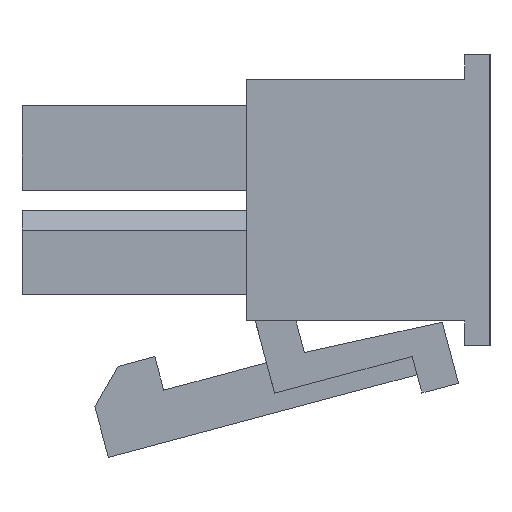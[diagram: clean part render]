
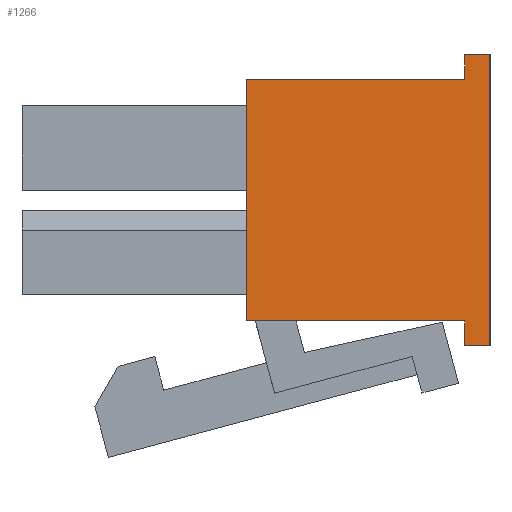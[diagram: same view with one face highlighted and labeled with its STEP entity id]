
A CAD part, left-side view. The second image highlights one B-rep face of the part: STEP entity #1266.
In plain terms, the highlighted planar face has unit normal (-1, 0, 0).
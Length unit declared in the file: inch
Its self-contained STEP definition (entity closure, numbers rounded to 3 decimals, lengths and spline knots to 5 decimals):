
#39 = EDGE_CURVE ( 'NONE', #16196, #15395, #2796, .T. ) ;
#329 = EDGE_CURVE ( 'NONE', #16259, #16260, #7403, .T. ) ;
#338 = EDGE_CURVE ( 'NONE', #16196, #16259, #7414, .T. ) ;
#341 = EDGE_CURVE ( 'NONE', #16260, #15516, #7427, .T. ) ;
#342 = EDGE_CURVE ( 'NONE', #15505, #15513, #7429, .T. ) ;
#466 = EDGE_CURVE ( 'NONE', #15395, #15398, #7677, .T. ) ;
#674 = ORIENTED_EDGE ( 'NONE', *, *, #39, .F. ) ;
#675 = ORIENTED_EDGE ( 'NONE', *, *, #338, .T. ) ;
#676 = ORIENTED_EDGE ( 'NONE', *, *, #329, .T. ) ;
#677 = ORIENTED_EDGE ( 'NONE', *, *, #341, .T. ) ;
#678 = ORIENTED_EDGE ( 'NONE', *, *, #3045, .F. ) ;
#679 = ORIENTED_EDGE ( 'NONE', *, *, #342, .F. ) ;
#680 = ORIENTED_EDGE ( 'NONE', *, *, #3048, .F. ) ;
#681 = ORIENTED_EDGE ( 'NONE', *, *, #466, .F. ) ;
#1266 = ADVANCED_FACE ( 'NONE', ( #8759 ), #9330, .F. ) ;
#1863 = EDGE_LOOP ( 'NONE', ( #674, #675, #676, #677, #678, #679, #680, #681 ) ) ;
#2796 = LINE ( 'NONE', #3307, #2805 ) ;
#2805 = VECTOR ( 'NONE', #3310, 39.37008 ) ;
#3045 = EDGE_CURVE ( 'NONE', #15513, #15516, #13750, .T. ) ;
#3048 = EDGE_CURVE ( 'NONE', #15398, #15505, #13756, .T. ) ;
#3307 = CARTESIAN_POINT ( 'NONE',  ( 0.86978, 4.28162, 0.29389 ) ) ;
#3310 = DIRECTION ( 'NONE',  ( 0., -1., 0. ) ) ;
#6302 = CARTESIAN_POINT ( 'NONE',  ( 0.86978, 1.13333, -0.088 ) ) ;
#6303 = DIRECTION ( 'NONE',  ( 0., -1., 0. ) ) ;
#6318 = CARTESIAN_POINT ( 'NONE',  ( 0.86978, 1.23821, 0.00042 ) ) ;
#6321 = DIRECTION ( 'NONE',  ( 0., 0., -1. ) ) ;
#6326 = CARTESIAN_POINT ( 'NONE',  ( 0.86978, 0.89238, -0.127 ) ) ;
#6327 = DIRECTION ( 'NONE',  ( 0., 0., -1. ) ) ;
#6328 = CARTESIAN_POINT ( 'NONE',  ( 0.86978, 0.85238, 0.28444 ) ) ;
#6329 = DIRECTION ( 'NONE',  ( 0., 0., -1. ) ) ;
#6576 = CARTESIAN_POINT ( 'NONE',  ( 0.86978, 0.89238, 0.292 ) ) ;
#6577 = DIRECTION ( 'NONE',  ( 0., 0., 1. ) ) ;
#7403 = LINE ( 'NONE', #6302, #7404 ) ;
#7404 = VECTOR ( 'NONE', #6303, 39.37008 ) ;
#7414 = LINE ( 'NONE', #6318, #7421 ) ;
#7421 = VECTOR ( 'NONE', #6321, 39.37008 ) ;
#7427 = LINE ( 'NONE', #6326, #7428 ) ;
#7428 = VECTOR ( 'NONE', #6327, 39.37008 ) ;
#7429 = LINE ( 'NONE', #6328, #7430 ) ;
#7430 = VECTOR ( 'NONE', #6329, 39.37008 ) ;
#7677 = LINE ( 'NONE', #6576, #7678 ) ;
#7678 = VECTOR ( 'NONE', #6577, 39.37008 ) ;
#8109 = AXIS2_PLACEMENT_3D ( 'NONE', #9321, #9343, #9344 ) ;
#8759 = FACE_OUTER_BOUND ( 'NONE', #1863, .T. ) ;
#9321 = CARTESIAN_POINT ( 'NONE',  ( 0.86978, 4.28162, 0.00042 ) ) ;
#9330 = PLANE ( 'NONE',  #8109 ) ;
#9343 = DIRECTION ( 'NONE',  ( 1., 0., 0. ) ) ;
#9344 = DIRECTION ( 'NONE',  ( 0., 0., -1. ) ) ;
#13750 = LINE ( 'NONE', #14257, #13751 ) ;
#13751 = VECTOR ( 'NONE', #14258, 39.37008 ) ;
#13756 = LINE ( 'NONE', #14263, #13757 ) ;
#13757 = VECTOR ( 'NONE', #14264, 39.37008 ) ;
#14257 = CARTESIAN_POINT ( 'NONE',  ( 0.86978, 4.28162, -0.12737 ) ) ;
#14258 = DIRECTION ( 'NONE',  ( 0., 1., 0. ) ) ;
#14263 = CARTESIAN_POINT ( 'NONE',  ( 0.86978, 4.28162, 0.33326 ) ) ;
#14264 = DIRECTION ( 'NONE',  ( 0., -1., 0. ) ) ;
#14777 = CARTESIAN_POINT ( 'NONE',  ( 0.86978, 0.89238, 0.29389 ) ) ;
#14780 = CARTESIAN_POINT ( 'NONE',  ( 0.86978, 0.89238, 0.33326 ) ) ;
#14887 = CARTESIAN_POINT ( 'NONE',  ( 0.86978, 0.85238, 0.33326 ) ) ;
#14895 = CARTESIAN_POINT ( 'NONE',  ( 0.86978, 0.85238, -0.12737 ) ) ;
#14898 = CARTESIAN_POINT ( 'NONE',  ( 0.86978, 0.89238, -0.12737 ) ) ;
#15049 = CARTESIAN_POINT ( 'NONE',  ( 0.86978, 1.23821, 0.29389 ) ) ;
#15112 = CARTESIAN_POINT ( 'NONE',  ( 0.86978, 1.23821, -0.088 ) ) ;
#15113 = CARTESIAN_POINT ( 'NONE',  ( 0.86978, 0.89238, -0.088 ) ) ;
#15395 = VERTEX_POINT ( 'NONE', #14777 ) ;
#15398 = VERTEX_POINT ( 'NONE', #14780 ) ;
#15505 = VERTEX_POINT ( 'NONE', #14887 ) ;
#15513 = VERTEX_POINT ( 'NONE', #14895 ) ;
#15516 = VERTEX_POINT ( 'NONE', #14898 ) ;
#16196 = VERTEX_POINT ( 'NONE', #15049 ) ;
#16259 = VERTEX_POINT ( 'NONE', #15112 ) ;
#16260 = VERTEX_POINT ( 'NONE', #15113 ) ;
